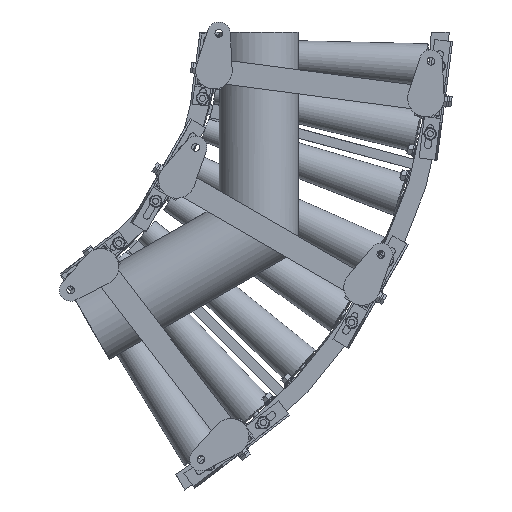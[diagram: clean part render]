
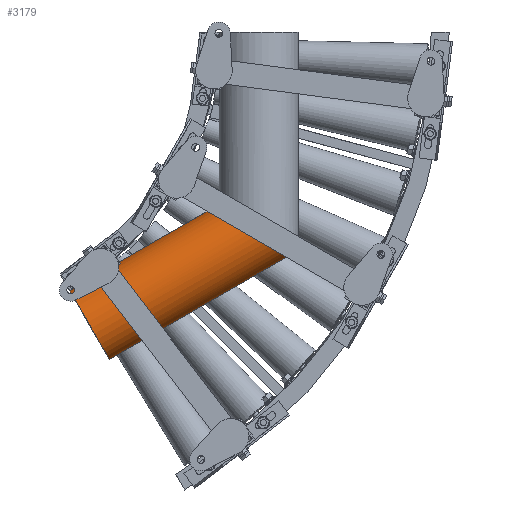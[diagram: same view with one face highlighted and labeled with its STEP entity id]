
A CAD part, front view. The second image highlights one B-rep face of the part: STEP entity #3179.
In plain terms, the highlighted cylindrical face has radius 67.024 mm (diameter 134.048 mm), a partial arc.
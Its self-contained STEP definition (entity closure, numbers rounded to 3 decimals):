
#3179=ADVANCED_FACE('',(#19465),#19464,.T.);
#19464=CYLINDRICAL_SURFACE('',#40257,67.024);
#19465=FACE_OUTER_BOUND('',#40258,.T.);
#40254=CARTESIAN_POINT('',(599.8,-156.676,-307.612));
#40255=DIRECTION('',(0.866,0.,0.5));
#40256=DIRECTION('',(0.5,0.,-0.866));
#40257=AXIS2_PLACEMENT_3D('',#40254,#40255,#40256);
#40258=EDGE_LOOP('',(#54116,#54117,#54118,#54119));
#54116=ORIENTED_EDGE('',*,*,#64042,.T.);
#54117=ORIENTED_EDGE('',*,*,#64043,.T.);
#54118=ORIENTED_EDGE('',*,*,#63952,.T.);
#54119=ORIENTED_EDGE('',*,*,#64041,.F.);
#63952=EDGE_CURVE('',#90860,#90874,#90881,.T.);
#64041=EDGE_CURVE('',#91449,#90874,#91456,.T.);
#64042=EDGE_CURVE('',#91449,#91462,#91463,.T.);
#64043=EDGE_CURVE('',#91462,#90860,#91469,.T.);
#90860=VERTEX_POINT('',#127544);
#90874=VERTEX_POINT('',#127552);
#90881=CIRCLE('',#127559,67.024);
#91449=VERTEX_POINT('',#127856);
#91456=LINE('',#127860,#127861);
#91462=VERTEX_POINT('',#127863);
#91463=(BOUNDED_CURVE() B_SPLINE_CURVE(2,(#127864,#127865,#127866,#127867,#127868),.UNSPECIFIED.,.F.,.F.) B_SPLINE_CURVE_WITH_KNOTS((3,2,3),(0.147,1.571,2.994),.UNSPECIFIED.) CURVE() GEOMETRIC_REPRESENTATION_ITEM() RATIONAL_B_SPLINE_CURVE((1.,0.757,1.,0.757,1.)) REPRESENTATION_ITEM('') );
#91469=LINE('',#127869,#127870);
#127544=CARTESIAN_POINT('',(250.,-166.5,-433.013));
#127552=CARTESIAN_POINT('',(316.3,-166.5,-547.848));
#127556=CARTESIAN_POINT('',(283.15,-156.676,-490.43));
#127557=DIRECTION('',(0.866,0.,0.5));
#127558=DIRECTION('',(0.5,0.,-0.866));
#127559=AXIS2_PLACEMENT_3D('',#127556,#127557,#127558);
#127856=CARTESIAN_POINT('',(632.6,-166.5,-365.232));
#127860=CARTESIAN_POINT('',(632.6,-166.5,-365.232));
#127861=VECTOR('',#127862,365.232);
#127862=DIRECTION('',(-0.866,0.,-0.5));
#127863=CARTESIAN_POINT('',(500.,-166.5,-288.675));
#127864=CARTESIAN_POINT('',(632.6,-166.5,-365.232));
#127865=CARTESIAN_POINT('',(624.125,-223.7,-360.338));
#127866=CARTESIAN_POINT('',(566.3,-223.7,-326.953));
#127867=CARTESIAN_POINT('',(508.475,-223.7,-293.568));
#127868=CARTESIAN_POINT('',(500.,-166.5,-288.675));
#127869=CARTESIAN_POINT('',(500.,-166.5,-288.675));
#127870=VECTOR('',#127871,288.675);
#127871=DIRECTION('',(-0.866,0.,-0.5));
